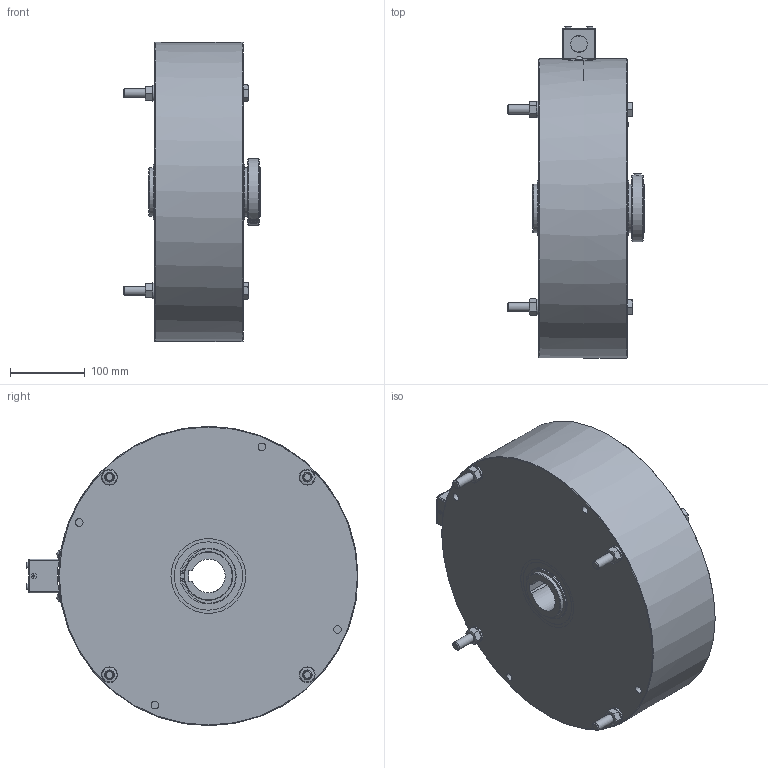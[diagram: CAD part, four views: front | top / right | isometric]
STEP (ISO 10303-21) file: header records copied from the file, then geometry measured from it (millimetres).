
FILE_DESCRIPTION((''),'2;1');
FILE_NAME('J:\WIP\Magpowr WEB\3D (Models)\Magnetic Particle Clutches and Brakes\Global Brakes\GBFM24.stp','2010-12-02T14:18:45',('lzuniga'),(''),'Autodesk Inventor 2010','Autodesk Inventor 2010','');
FILE_SCHEMA(('AUTOMOTIVE_DESIGN { 1 0 10303 214 1 1 1 1 }'));
Length unit declared in the file: inch
Products named in the file (14): GBFM24 Assy; GBF24 Assy; Right Stator, Left Stator, & Rotor; Junction Box & Junction Box Cover Assy; Junction Box MAGPOWR 600B347; Junction Box Cover; 8-32 x 1_4 LG; M12 X 1.75 X 160mm; M12 - Lock Washer; M12 X 1.75; Collar 714A1-12; M10 X 1.5 X 20 mm FIFE 90252-004; #12 X 0.5 LG MAGPOWR 29A90-1; External Snap Ring MAGPOWR 29A7-255
Assembly tree (26 placements, depth 4):
  GBFM24 Assy
    GBF24 Assy
      Right Stator, Left Stator, & Rotor
      Junction Box & Junction Box Cover Assy
        Junction Box MAGPOWR 600B347
        Junction Box Cover
        8-32 x 1_4 LG  x2
      M12 X 1.75 X 160mm  x4
      M12 - Lock Washer  x4
      M12 X 1.75  x4
      Collar 714A1-12
      M10 X 1.5 X 20 mm FIFE 90252-004  x2
      #12 X 0.5 LG MAGPOWR 29A90-1  x2
      External Snap Ring MAGPOWR 29A7-255  x2
Bounding box: 183.37 x 443.83 x 400.05 mm (x, y, z)
Volume: 14762928.1 mm3; surface area: 543222.9 mm2
Topology: 24 solids, 25 shells, 403 faces, 939 edges, 613 vertices
Faces by surface type: plane 227, bspline 81, cylinder 72, cone 18, sphere 3, torus 2
Full cylindrical faces by diameter (mm): 2.705 x1, 3.175 x2, 4.166 x2, 4.851 x2, 5.385 x1, 7.493 x2, 7.925 x1, 8.179 x2, 9.98 x2, 10.363 x2, 11.98 x4, 12 x4, 22.225 x2, 61.44 x2, 64.991 x2, 65 x1, 74.422 x2, 88.9 x1, 91.44 x2, 100 x2, 400.049 x1, 400.05 x1
Entity records: 8604 total; most frequent: CARTESIAN_POINT 2477, DIRECTION 1144, ORIENTED_EDGE 1044, EDGE_CURVE 522, AXIS2_PLACEMENT_3D 420, EDGE_LOOP 400, VERTEX_POINT 382, VECTOR 304
